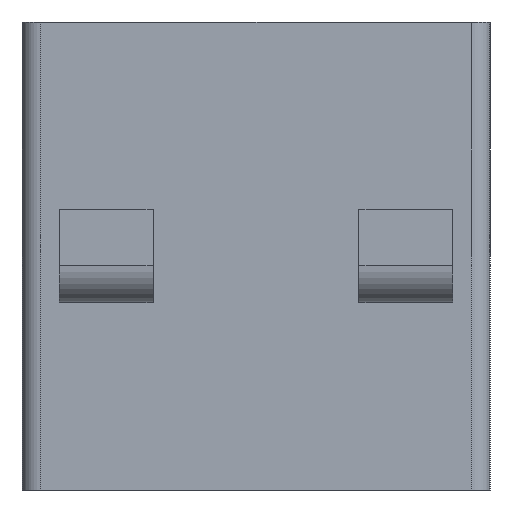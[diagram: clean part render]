
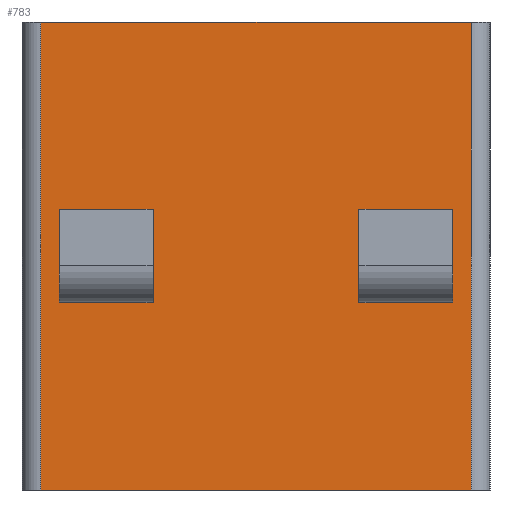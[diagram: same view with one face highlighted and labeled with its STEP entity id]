
A CAD part, left-side view. The second image highlights one B-rep face of the part: STEP entity #783.
In plain terms, the highlighted planar face has unit normal (-1, 0, 0).
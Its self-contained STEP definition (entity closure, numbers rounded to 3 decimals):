
#34=CARTESIAN_POINT('',(-50.,46.,30.));
#35=VERTEX_POINT('',#34);
#50=CARTESIAN_POINT('',(-50.,36.,30.));
#51=VERTEX_POINT('',#50);
#58=CARTESIAN_POINT('',(-50.,46.,30.));
#59=DIRECTION('',(0.,-1.,0.));
#60=VECTOR('',#59,10.);
#61=LINE('',#58,#60);
#62=EDGE_CURVE('',#35,#51,#61,.T.);
#74=CARTESIAN_POINT('',(-50.,14.,30.));
#75=VERTEX_POINT('',#74);
#90=CARTESIAN_POINT('',(-50.,4.,30.));
#91=VERTEX_POINT('',#90);
#98=CARTESIAN_POINT('',(-50.,14.,30.));
#99=DIRECTION('',(0.,-1.,0.));
#100=VECTOR('',#99,10.);
#101=LINE('',#98,#100);
#102=EDGE_CURVE('',#75,#91,#101,.T.);
#539=CARTESIAN_POINT('',(-50.,48.,50.));
#540=VERTEX_POINT('',#539);
#548=CARTESIAN_POINT('',(-50.,2.,50.));
#549=VERTEX_POINT('',#548);
#550=CARTESIAN_POINT('',(-50.,48.,50.));
#551=DIRECTION('',(-0.,-1.,0.));
#552=VECTOR('',#551,46.);
#553=LINE('',#550,#552);
#554=EDGE_CURVE('',#540,#549,#553,.T.);
#703=CARTESIAN_POINT('',(-50.,25.,50.));
#704=DIRECTION('',(1.,-0.,0.));
#705=DIRECTION('',(0.,1.,0.));
#706=AXIS2_PLACEMENT_3D('',#703,#704,#705);
#707=PLANE('',#706);
#708=CARTESIAN_POINT('',(-50.,4.,20.));
#709=VERTEX_POINT('',#708);
#710=CARTESIAN_POINT('',(-50.,4.,30.));
#711=DIRECTION('',(0.,0.,-1.));
#712=VECTOR('',#711,10.);
#713=LINE('',#710,#712);
#714=EDGE_CURVE('',#91,#709,#713,.T.);
#715=ORIENTED_EDGE('',*,*,#714,.T.);
#716=CARTESIAN_POINT('',(-50.,14.,20.));
#717=VERTEX_POINT('',#716);
#718=CARTESIAN_POINT('',(-50.,4.,20.));
#719=DIRECTION('',(0.,1.,-0.));
#720=VECTOR('',#719,10.);
#721=LINE('',#718,#720);
#722=EDGE_CURVE('',#709,#717,#721,.T.);
#723=ORIENTED_EDGE('',*,*,#722,.T.);
#724=CARTESIAN_POINT('',(-50.,14.,20.));
#725=DIRECTION('',(0.,0.,1.));
#726=VECTOR('',#725,10.);
#727=LINE('',#724,#726);
#728=EDGE_CURVE('',#717,#75,#727,.T.);
#729=ORIENTED_EDGE('',*,*,#728,.T.);
#730=ORIENTED_EDGE('',*,*,#102,.T.);
#731=EDGE_LOOP('',(#715,#723,#729,#730));
#732=FACE_BOUND('',#731,.T.);
#733=CARTESIAN_POINT('',(-50.,46.,20.));
#734=VERTEX_POINT('',#733);
#735=CARTESIAN_POINT('',(-50.,46.,20.));
#736=DIRECTION('',(0.,0.,1.));
#737=VECTOR('',#736,10.);
#738=LINE('',#735,#737);
#739=EDGE_CURVE('',#734,#35,#738,.T.);
#740=ORIENTED_EDGE('',*,*,#739,.T.);
#741=ORIENTED_EDGE('',*,*,#62,.T.);
#742=CARTESIAN_POINT('',(-50.,36.,20.));
#743=VERTEX_POINT('',#742);
#744=CARTESIAN_POINT('',(-50.,36.,30.));
#745=DIRECTION('',(0.,0.,-1.));
#746=VECTOR('',#745,10.);
#747=LINE('',#744,#746);
#748=EDGE_CURVE('',#51,#743,#747,.T.);
#749=ORIENTED_EDGE('',*,*,#748,.T.);
#750=CARTESIAN_POINT('',(-50.,36.,20.));
#751=DIRECTION('',(0.,1.,0.));
#752=VECTOR('',#751,10.);
#753=LINE('',#750,#752);
#754=EDGE_CURVE('',#743,#734,#753,.T.);
#755=ORIENTED_EDGE('',*,*,#754,.T.);
#756=EDGE_LOOP('',(#740,#741,#749,#755));
#757=FACE_BOUND('',#756,.T.);
#758=ORIENTED_EDGE('',*,*,#554,.F.);
#759=CARTESIAN_POINT('',(-50.,48.,0.));
#760=VERTEX_POINT('',#759);
#761=CARTESIAN_POINT('',(-50.,48.,50.));
#762=DIRECTION('',(0.,0.,-1.));
#763=VECTOR('',#762,50.);
#764=LINE('',#761,#763);
#765=EDGE_CURVE('',#540,#760,#764,.T.);
#766=ORIENTED_EDGE('',*,*,#765,.T.);
#767=CARTESIAN_POINT('',(-50.,2.,0.));
#768=VERTEX_POINT('',#767);
#769=CARTESIAN_POINT('',(-50.,48.,0.));
#770=DIRECTION('',(-0.,-1.,0.));
#771=VECTOR('',#770,46.);
#772=LINE('',#769,#771);
#773=EDGE_CURVE('',#760,#768,#772,.T.);
#774=ORIENTED_EDGE('',*,*,#773,.T.);
#775=CARTESIAN_POINT('',(-50.,2.,0.));
#776=DIRECTION('',(-0.,-0.,1.));
#777=VECTOR('',#776,50.);
#778=LINE('',#775,#777);
#779=EDGE_CURVE('',#768,#549,#778,.T.);
#780=ORIENTED_EDGE('',*,*,#779,.T.);
#781=EDGE_LOOP('',(#758,#766,#774,#780));
#782=FACE_BOUND('',#781,.T.);
#783=ADVANCED_FACE('',(#732,#757,#782),#707,.F.);
